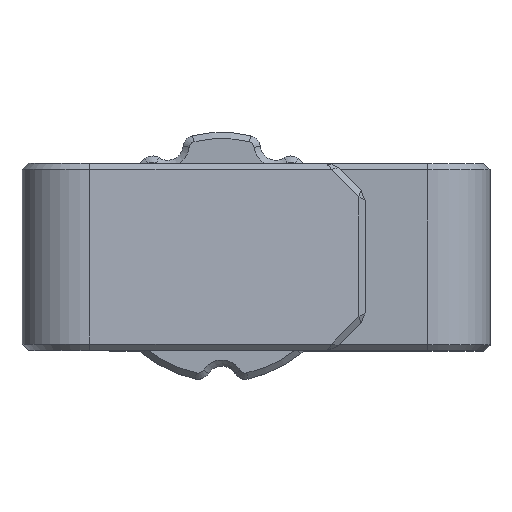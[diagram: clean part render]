
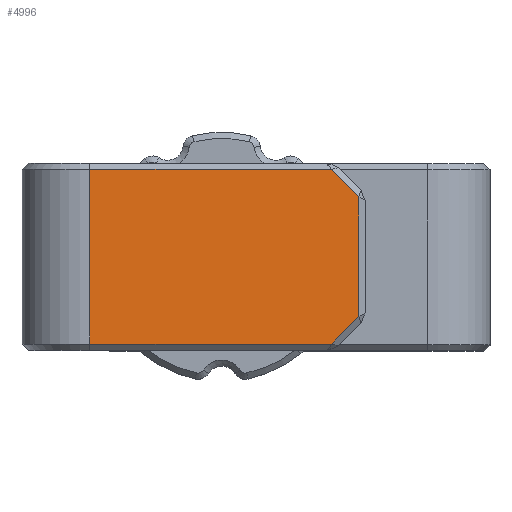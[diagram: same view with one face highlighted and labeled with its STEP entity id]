
A CAD part, top view. The second image highlights one B-rep face of the part: STEP entity #4996.
In plain terms, the highlighted planar face has unit normal (0.087, 0, 0.996).
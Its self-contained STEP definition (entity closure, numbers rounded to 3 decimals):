
#224=PLANE('',#5357);
#417=FACE_OUTER_BOUND('',#735,.T.);
#735=EDGE_LOOP('',(#3909,#3910,#3911,#3912,#3913,#3914));
#1394=LINE('',#9314,#1855);
#1396=LINE('',#9317,#1857);
#1401=LINE('',#9325,#1862);
#1412=LINE('',#9341,#1873);
#1421=LINE('',#9357,#1882);
#1436=LINE('',#9736,#1897);
#1855=VECTOR('',#6211,10.);
#1857=VECTOR('',#6215,10.);
#1862=VECTOR('',#6226,10.);
#1873=VECTOR('',#6247,10.);
#1882=VECTOR('',#6266,10.);
#1897=VECTOR('',#6305,10.);
#2230=VERTEX_POINT('',#9084);
#2251=VERTEX_POINT('',#9156);
#2262=VERTEX_POINT('',#9182);
#2288=VERTEX_POINT('',#9284);
#2293=VERTEX_POINT('',#9310);
#2295=VERTEX_POINT('',#9355);
#2841=EDGE_CURVE('',#2293,#2288,#1394,.T.);
#2843=EDGE_CURVE('',#2288,#2262,#1396,.T.);
#2848=EDGE_CURVE('',#2262,#2251,#1401,.T.);
#2859=EDGE_CURVE('',#2251,#2230,#1412,.T.);
#2868=EDGE_CURVE('',#2230,#2295,#1421,.T.);
#2892=EDGE_CURVE('',#2295,#2293,#1436,.T.);
#3909=ORIENTED_EDGE('',*,*,#2868,.F.);
#3910=ORIENTED_EDGE('',*,*,#2859,.F.);
#3911=ORIENTED_EDGE('',*,*,#2848,.F.);
#3912=ORIENTED_EDGE('',*,*,#2843,.F.);
#3913=ORIENTED_EDGE('',*,*,#2841,.F.);
#3914=ORIENTED_EDGE('',*,*,#2892,.F.);
#4996=ADVANCED_FACE('',(#417),#224,.T.);
#5357=AXIS2_PLACEMENT_3D('',#9735,#6303,#6304);
#6211=DIRECTION('',(0.996,0.,-0.087));
#6215=DIRECTION('',(0.706,-0.706,-0.062));
#6226=DIRECTION('',(0.,-1.,0.));
#6247=DIRECTION('',(-0.706,-0.706,0.062));
#6266=DIRECTION('',(-0.996,0.,0.087));
#6303=DIRECTION('center_axis',(0.087,0.,0.996));
#6304=DIRECTION('ref_axis',(0.996,0.,-0.087));
#6305=DIRECTION('',(0.,1.,0.));
#9084=CARTESIAN_POINT('',(99.588,63.123,48.662));
#9156=CARTESIAN_POINT('',(104.004,67.538,48.275));
#9182=CARTESIAN_POINT('',(104.004,86.708,48.275));
#9284=CARTESIAN_POINT('',(99.588,91.123,48.662));
#9310=CARTESIAN_POINT('',(60.872,91.123,52.049));
#9314=CARTESIAN_POINT('',(70.8,91.123,51.18));
#9317=CARTESIAN_POINT('',(95.921,94.791,48.982));
#9325=CARTESIAN_POINT('',(104.004,62.123,48.275));
#9341=CARTESIAN_POINT('',(88.449,51.984,49.636));
#9355=CARTESIAN_POINT('',(60.872,63.123,52.049));
#9357=CARTESIAN_POINT('',(70.8,63.123,51.18));
#9735=CARTESIAN_POINT('Origin',(50.,62.123,53.));
#9736=CARTESIAN_POINT('',(60.872,62.123,52.049));
